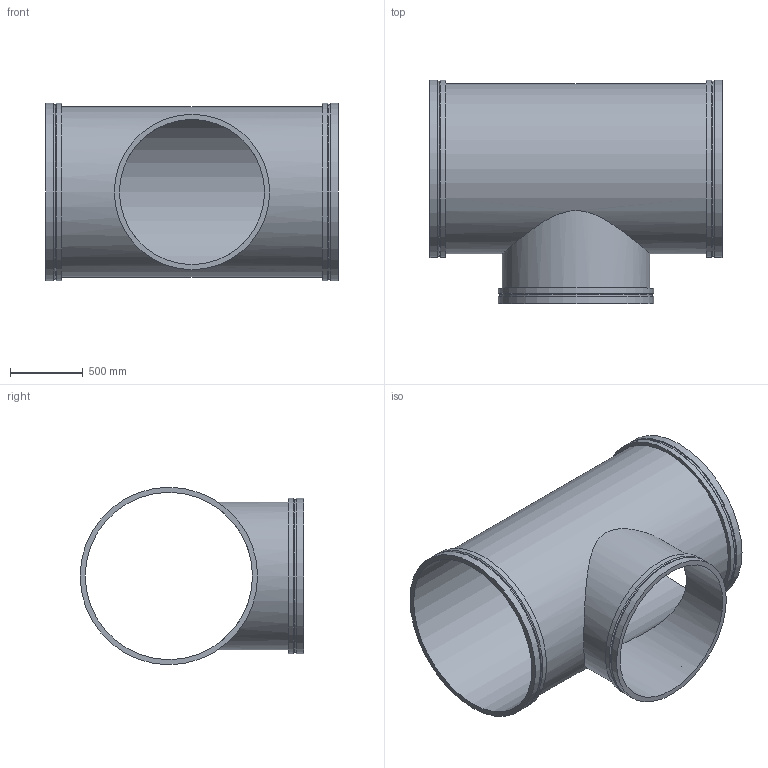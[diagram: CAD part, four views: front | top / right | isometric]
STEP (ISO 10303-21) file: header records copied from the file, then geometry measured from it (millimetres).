
FILE_DESCRIPTION(/* description */ ('VIC REDUCING TEE No W025 VR','CAx-IF Rec.Pracs.---Representation and Presentation of Product Manufacturing Information (PMI)---4.0---2014-10-13'),/* implementation_level */ '2;1');
FILE_NAME(/* name */ 'C:\Users\kkamble\AppData\Roaming\Autodesk\ApplicationPlugins\Back Up\Victaulic_Vic-Ring_Tee Reducing_No W25 VR (AGR)\Victaulic_Vic-Ring_Tee Reducing_No W25 VR (AGR)_46.0x40.0 (1150x1000).stp',/* time_stamp */ '2020-09-10T11:56:52+05:00',/* author */ ('mchristi'),/* organization */ ('Victaulic'),/* preprocessor_version */ 'ST-DEVELOPER v17.2',/* originating_system */ 'Autodesk Inventor 2019',/* authorisation */ '');
FILE_SCHEMA (('AP242_MANAGED_MODEL_BASED_3D_ENGINEERING_MIM_LF { 1 0 10303 442 1 1 4 }'));
Length unit declared in the file: inch
Products named in the file (1): W25 VR-46.0x40.0
Bounding box: 2006.6 x 1536.7 x 1219.2 mm (x, y, z)
Volume: 103520232.2 mm3; surface area: 16661080.2 mm2
Topology: 1 solids, 1 shells, 25 faces, 68 edges, 52 vertices
Faces by surface type: cylinder 13, plane 9, cone 3
Full cylindrical faces by diameter (mm): 996.95 x1, 1016 x1, 1050.925 x1, 1066.8 x2, 1149.35 x1, 1168.4 x1, 1203.325 x2, 1219.2 x4
Entity records: 1267 total; most frequent: CARTESIAN_POINT 423, DIRECTION 190, ORIENTED_EDGE 136, AXIS2_PLACEMENT_3D 87, EDGE_CURVE 68, VERTEX_POINT 52, CIRCLE 48, EDGE_LOOP 36
